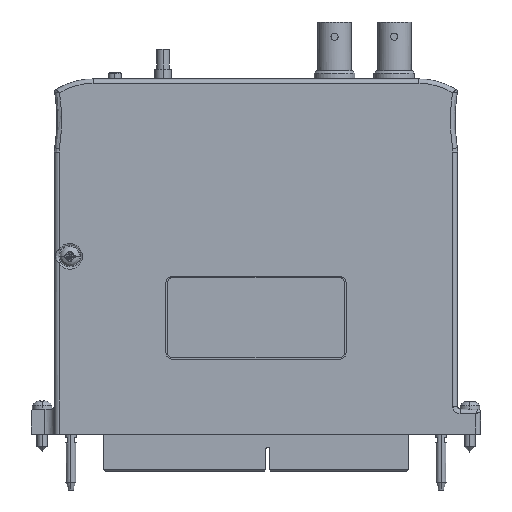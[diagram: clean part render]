
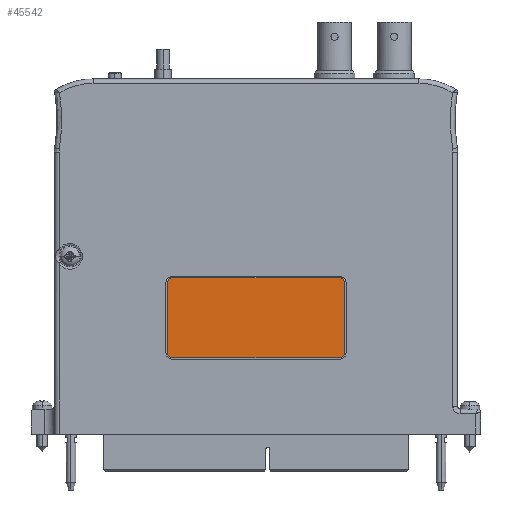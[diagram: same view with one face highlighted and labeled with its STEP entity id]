
A CAD part, left-side view. The second image highlights one B-rep face of the part: STEP entity #45542.
In plain terms, the highlighted planar face has unit normal (-1, 0, 0).
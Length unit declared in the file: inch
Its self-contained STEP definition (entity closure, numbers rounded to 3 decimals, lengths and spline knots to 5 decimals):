
#17090=CARTESIAN_POINT('',(-0.394,0.938,1.699));
#17091=DIRECTION('',(-1.,0.,0.));
#17092=DIRECTION('',(0.,0.,1.));
#17093=AXIS2_PLACEMENT_3D('',#17090,#17091,#17092);
#17095=DIRECTION('',(0.,1.,0.));
#17096=VECTOR('',#17095,1.876);
#17097=CARTESIAN_POINT('',(-0.394,-0.938,1.761));
#17098=LINE('',#17097,#17096);
#17099=CARTESIAN_POINT('',(-0.394,-0.938,1.699));
#17100=DIRECTION('',(-1.,0.,0.));
#17101=DIRECTION('',(0.,-1.,0.));
#17102=AXIS2_PLACEMENT_3D('',#17099,#17100,#17101);
#17104=DIRECTION('',(0.,0.,1.));
#17105=VECTOR('',#17104,0.782);
#17106=CARTESIAN_POINT('',(-0.394,-1.,0.917));
#17107=LINE('',#17106,#17105);
#17108=CARTESIAN_POINT('',(-0.394,-0.938,0.917));
#17109=DIRECTION('',(-1.,0.,0.));
#17110=DIRECTION('',(0.,0.,-1.));
#17111=AXIS2_PLACEMENT_3D('',#17108,#17109,#17110);
#17113=DIRECTION('',(0.,-1.,0.));
#17114=VECTOR('',#17113,1.876);
#17115=CARTESIAN_POINT('',(-0.394,0.938,0.855));
#17116=LINE('',#17115,#17114);
#17117=CARTESIAN_POINT('',(-0.394,0.938,0.917));
#17118=DIRECTION('',(-1.,0.,0.));
#17119=DIRECTION('',(0.,1.,0.));
#17120=AXIS2_PLACEMENT_3D('',#17117,#17118,#17119);
#17122=DIRECTION('',(0.,0.,-1.));
#17123=VECTOR('',#17122,0.782);
#17124=CARTESIAN_POINT('',(-0.394,1.,1.699));
#17125=LINE('',#17124,#17123);
#22399=CARTESIAN_POINT('',(-0.394,0.938,1.761));
#22400=CARTESIAN_POINT('',(-0.394,1.,1.699));
#22401=VERTEX_POINT('',#22399);
#22402=VERTEX_POINT('',#22400);
#22403=CARTESIAN_POINT('',(-0.394,-1.,1.699));
#22404=CARTESIAN_POINT('',(-0.394,-0.938,1.761));
#22405=VERTEX_POINT('',#22403);
#22406=VERTEX_POINT('',#22404);
#22407=CARTESIAN_POINT('',(-0.394,-0.938,0.855));
#22408=CARTESIAN_POINT('',(-0.394,-1.,0.917));
#22409=VERTEX_POINT('',#22407);
#22410=VERTEX_POINT('',#22408);
#22411=CARTESIAN_POINT('',(-0.394,1.,0.917));
#22412=CARTESIAN_POINT('',(-0.394,0.938,0.855));
#22413=VERTEX_POINT('',#22411);
#22414=VERTEX_POINT('',#22412);
#45527=CARTESIAN_POINT('',(-0.394,-1.,1.761));
#45528=DIRECTION('',(-1.,0.,0.));
#45529=DIRECTION('',(0.,1.,0.));
#45530=AXIS2_PLACEMENT_3D('',#45527,#45528,#45529);
#45531=PLANE('',#45530);
#45532=ORIENTED_EDGE('',*,*,#45521,.F.);
#45533=ORIENTED_EDGE('',*,*,#45423,.F.);
#45534=ORIENTED_EDGE('',*,*,#45438,.F.);
#45535=ORIENTED_EDGE('',*,*,#45452,.F.);
#45536=ORIENTED_EDGE('',*,*,#45466,.F.);
#45537=ORIENTED_EDGE('',*,*,#45480,.F.);
#45538=ORIENTED_EDGE('',*,*,#45494,.F.);
#45539=ORIENTED_EDGE('',*,*,#45508,.F.);
#45540=EDGE_LOOP('',(#45532,#45533,#45534,#45535,#45536,#45537,#45538,#45539));
#45541=FACE_OUTER_BOUND('',#45540,.F.);
#45542=ADVANCED_FACE('',(#45541),#45531,.T.);
#17094=CIRCLE('',#17093,0.062);
#17103=CIRCLE('',#17102,0.062);
#17112=CIRCLE('',#17111,0.062);
#17121=CIRCLE('',#17120,0.062);
#45423=EDGE_CURVE('',#22406,#22401,#17098,.T.);
#45438=EDGE_CURVE('',#22405,#22406,#17103,.T.);
#45452=EDGE_CURVE('',#22410,#22405,#17107,.T.);
#45466=EDGE_CURVE('',#22409,#22410,#17112,.T.);
#45480=EDGE_CURVE('',#22414,#22409,#17116,.T.);
#45494=EDGE_CURVE('',#22413,#22414,#17121,.T.);
#45508=EDGE_CURVE('',#22402,#22413,#17125,.T.);
#45521=EDGE_CURVE('',#22401,#22402,#17094,.T.);
